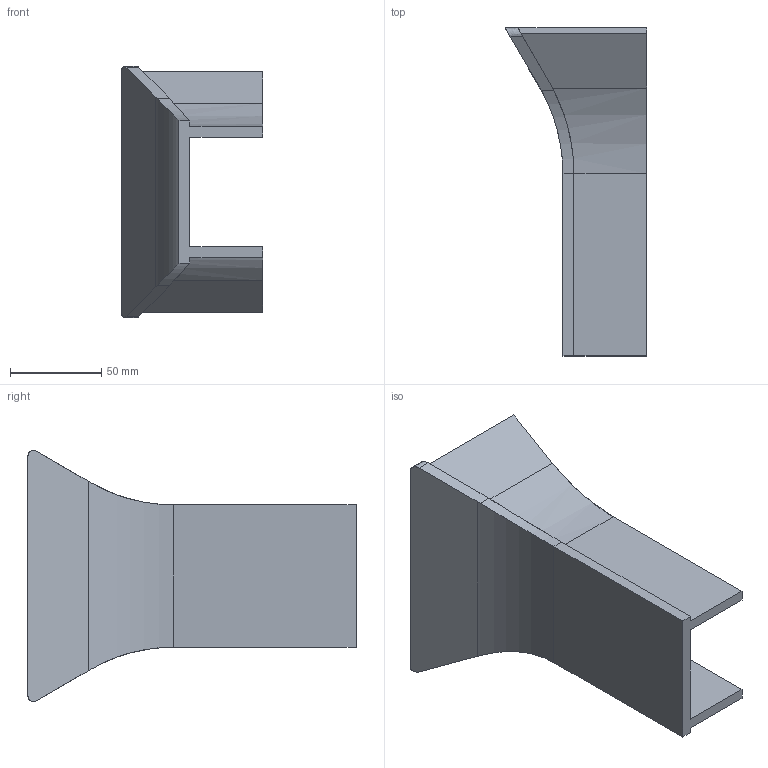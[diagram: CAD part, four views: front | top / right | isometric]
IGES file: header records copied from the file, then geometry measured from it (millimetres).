
Global section: file name: E:\UnigraphicsGraphicData\MISUMI_PRESS-PARTS\IGES\3d_cilg-100-40-60_00263_r00.igs; native system: NX V5.0; preprocessor: UGS NX IGES V5.0; author: MISUMI; date: 20110105.160245; units: millimetre
Bounding box: 77.65 x 180 x 137.89 mm (x, y, z)
Surface area: 71907.6 mm2 (no closed solid volume)
Topology: 0 solids, 0 shells, 38 faces, 214 edges, 214 vertices
Faces by surface type: bspline 38
